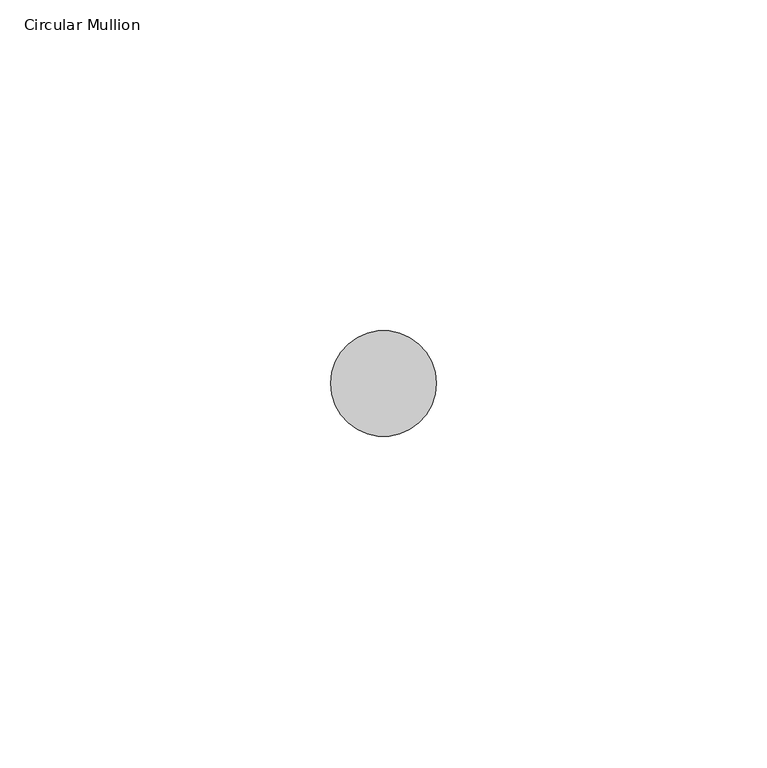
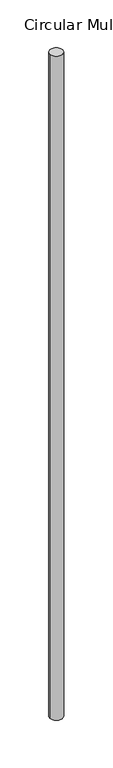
"""IFC4 building model written with IfcOpenShell, lengths in millimetres: member geometry, Circular Mullion : ARQ_HERR_16mm."""

from ifc_helpers import new_model, si_unit, point, frame, origin, origin_2d, place, context, project, spatial, circle_curve, trimmed, segment, composite_curve, outline, extrude, source, transform, mapped, element, save


def circular_mullion_3b60ae39(model_context):
    return source(origin(), model_context, "Body", "SweptSolid", [
        extrude(outline(composite_curve([segment(trimmed(circle_curve(origin_2d(), 8.0), [point((8.0, 0.0))], [point((-8.0, 0.0))], False, "CARTESIAN"), True, "CONTINUOUS"), segment(trimmed(circle_curve(origin_2d(), 8.0), [point((-8.0, 0.0))], [point((8.0, 0.0))], False, "CARTESIAN"), True, "CONTINUOUS")], self_intersect=False)), frame((0.0, 0.0, -878.0436542), z_axis=(0.0, 0.0, 1.0), x_axis=(1.0, 0.0, 0.0)), (0.0, 0.0, 1.0), 878.0436542),
    ])


if __name__ == "__main__":
    model = new_model("IFC4")
    model_context = context("Model", 3, world=origin())
    ifc_project = project(units=[si_unit("LENGTHUNIT", "METRE", prefix="MILLI")], contexts=[model_context])
    site = spatial("IfcSite", under=ifc_project)
    building = spatial("IfcBuilding", under=site)
    placement = place(None, origin())
    circular_mullion_shape = circular_mullion_3b60ae39(model_context)
    element("IfcMember", 1, ObjectType="Circular Mullion : ARQ_HERR_16mm", at=placement, inside=building, context=model_context, shape_type="MappedRepresentation", body=[
        mapped(circular_mullion_shape, transform((0.0, 0.0, 0.0), x_axis=(1.0, 0.0, 0.0), y_axis=(0.0, 1.0, 0.0), z_axis=(0.0, 0.0, 1.0))),
    ])
    save(model, "model.ifc")
